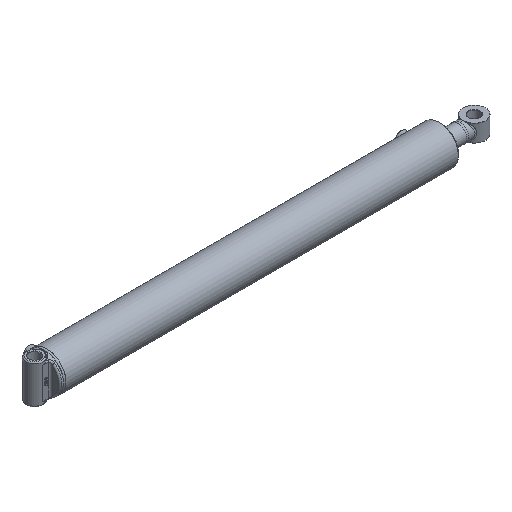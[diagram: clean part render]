
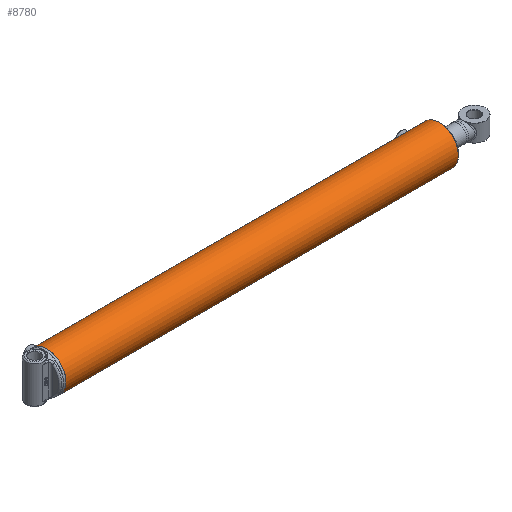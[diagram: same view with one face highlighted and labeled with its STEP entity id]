
A CAD part, isometric view. The second image highlights one B-rep face of the part: STEP entity #8780.
In plain terms, the highlighted cylindrical face has radius 56.356 mm (diameter 112.712 mm), a full revolution.
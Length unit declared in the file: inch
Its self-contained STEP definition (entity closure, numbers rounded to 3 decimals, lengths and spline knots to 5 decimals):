
#808=B_SPLINE_CURVE_WITH_KNOTS('',3,(#13133,#13134,#13135,#13136,#13137,
#13138,#13139,#13140,#13141,#13142),.UNSPECIFIED.,.F.,.F.,(4,2,2,2,4),(0.,
0.23942,0.47883,0.71824,0.95766),
 .UNSPECIFIED.);
#809=B_SPLINE_CURVE_WITH_KNOTS('',3,(#13143,#13144,#13145,#13146,#13147,
#13148,#13149,#13150,#13151,#13152,#13153,#13154,#13155,#13156,#13157,#13158,
#13159,#13160,#13161,#13162,#13163,#13164,#13165,#13166,#13167,#13168),
 .UNSPECIFIED.,.F.,.F.,(4,2,2,2,2,2,2,2,2,2,2,2,4),(0.95766,1.19707,
1.43649,1.6759,1.91532,2.15473,2.39415,
2.63356,2.87297,3.11239,3.3518,3.59122,
3.83063),.UNSPECIFIED.);
#810=B_SPLINE_CURVE_WITH_KNOTS('',3,(#13173,#13174,#13175,#13176,#13177,
#13178,#13179,#13180,#13181,#13182),.UNSPECIFIED.,.F.,.F.,(4,2,2,2,4),(0.,
0.23942,0.47883,0.71824,0.95766),
 .UNSPECIFIED.);
#811=B_SPLINE_CURVE_WITH_KNOTS('',3,(#13183,#13184,#13185,#13186,#13187,
#13188,#13189,#13190,#13191,#13192,#13193,#13194,#13195,#13196,#13197,#13198,
#13199,#13200,#13201,#13202,#13203,#13204,#13205,#13206,#13207,#13208),
 .UNSPECIFIED.,.F.,.F.,(4,2,2,2,2,2,2,2,2,2,2,2,4),(0.95766,1.19707,
1.43649,1.6759,1.91532,2.15473,2.39415,
2.63356,2.87297,3.11239,3.3518,3.59122,
3.83063),.UNSPECIFIED.);
#1096=FACE_BOUND('',#2595,.T.);
#1097=FACE_BOUND('',#2596,.T.);
#1352=LINE('',#13244,#1693);
#1693=VECTOR('',#10661,2.21875);
#2031=CYLINDRICAL_SURFACE('',#9525,2.21875);
#2119=FACE_OUTER_BOUND('',#2594,.T.);
#2594=EDGE_LOOP('',(#6139,#6140,#6141,#6142,#6143,#6144));
#2595=EDGE_LOOP('',(#6145,#6146));
#2596=EDGE_LOOP('',(#6147,#6148));
#3157=CIRCLE('',#9522,2.21875);
#3159=CIRCLE('',#9524,2.21875);
#3160=CIRCLE('',#9526,2.21875);
#3161=CIRCLE('',#9527,2.21875);
#3801=VERTEX_POINT('',#13130);
#3802=VERTEX_POINT('',#13132);
#3803=VERTEX_POINT('',#13170);
#3804=VERTEX_POINT('',#13172);
#3815=VERTEX_POINT('',#13237);
#3816=VERTEX_POINT('',#13238);
#3817=VERTEX_POINT('',#13243);
#3818=VERTEX_POINT('',#13245);
#4736=EDGE_CURVE('',#3802,#3801,#808,.T.);
#4737=EDGE_CURVE('',#3801,#3802,#809,.T.);
#4739=EDGE_CURVE('',#3804,#3803,#810,.T.);
#4740=EDGE_CURVE('',#3803,#3804,#811,.T.);
#4754=EDGE_CURVE('',#3815,#3816,#3157,.T.);
#4756=EDGE_CURVE('',#3816,#3815,#3159,.T.);
#4757=EDGE_CURVE('',#3815,#3817,#1352,.T.);
#4758=EDGE_CURVE('',#3818,#3817,#3160,.T.);
#4759=EDGE_CURVE('',#3817,#3818,#3161,.T.);
#6139=ORIENTED_EDGE('',*,*,#4754,.F.);
#6140=ORIENTED_EDGE('',*,*,#4757,.T.);
#6141=ORIENTED_EDGE('',*,*,#4758,.F.);
#6142=ORIENTED_EDGE('',*,*,#4759,.F.);
#6143=ORIENTED_EDGE('',*,*,#4757,.F.);
#6144=ORIENTED_EDGE('',*,*,#4756,.F.);
#6145=ORIENTED_EDGE('',*,*,#4736,.T.);
#6146=ORIENTED_EDGE('',*,*,#4737,.T.);
#6147=ORIENTED_EDGE('',*,*,#4739,.T.);
#6148=ORIENTED_EDGE('',*,*,#4740,.T.);
#8780=ADVANCED_FACE('',(#2119,#1096,#1097),#2031,.T.);
#9522=AXIS2_PLACEMENT_3D('',#13239,#10653,#10654);
#9524=AXIS2_PLACEMENT_3D('',#13241,#10657,#10658);
#9525=AXIS2_PLACEMENT_3D('',#13242,#10659,#10660);
#9526=AXIS2_PLACEMENT_3D('',#13246,#10662,#10663);
#9527=AXIS2_PLACEMENT_3D('',#13247,#10664,#10665);
#10653=DIRECTION('center_axis',(1.,0.,0.));
#10654=DIRECTION('ref_axis',(0.,-1.,0.));
#10657=DIRECTION('center_axis',(1.,0.,0.));
#10658=DIRECTION('ref_axis',(0.,-1.,0.));
#10659=DIRECTION('center_axis',(1.,0.,0.));
#10660=DIRECTION('ref_axis',(0.,-1.,0.));
#10661=DIRECTION('',(-1.,0.,0.));
#10662=DIRECTION('center_axis',(-1.,0.,0.));
#10663=DIRECTION('ref_axis',(0.,-1.,0.));
#10664=DIRECTION('center_axis',(-1.,0.,0.));
#10665=DIRECTION('ref_axis',(0.,-1.,0.));
#13130=CARTESIAN_POINT('',(0.75,0.,2.21875));
#13132=CARTESIAN_POINT('',(1.,-0.25,2.20462));
#13133=CARTESIAN_POINT('Ctrl Pts',(1.,-0.25,2.20462));
#13134=CARTESIAN_POINT('Ctrl Pts',(0.96858,-0.25,2.20462));
#13135=CARTESIAN_POINT('Ctrl Pts',(0.93509,-0.24372,
2.20536));
#13136=CARTESIAN_POINT('Ctrl Pts',(0.8735,-0.21819,
2.20803));
#13137=CARTESIAN_POINT('Ctrl Pts',(0.8454,-0.19896,
2.20992));
#13138=CARTESIAN_POINT('Ctrl Pts',(0.80104,-0.1546,
2.21347));
#13139=CARTESIAN_POINT('Ctrl Pts',(0.78181,-0.1265,
2.21536));
#13140=CARTESIAN_POINT('Ctrl Pts',(0.75628,-0.06491,
2.21801));
#13141=CARTESIAN_POINT('Ctrl Pts',(0.75,-0.03142,2.21875));
#13142=CARTESIAN_POINT('Ctrl Pts',(0.75,0.,2.21875));
#13143=CARTESIAN_POINT('Ctrl Pts',(0.75,0.,2.21875));
#13144=CARTESIAN_POINT('Ctrl Pts',(0.75,0.03142,2.21875));
#13145=CARTESIAN_POINT('Ctrl Pts',(0.75628,0.06491,2.21801));
#13146=CARTESIAN_POINT('Ctrl Pts',(0.78181,0.1265,
2.21536));
#13147=CARTESIAN_POINT('Ctrl Pts',(0.80104,0.1546,
2.21347));
#13148=CARTESIAN_POINT('Ctrl Pts',(0.8454,0.19896,
2.20992));
#13149=CARTESIAN_POINT('Ctrl Pts',(0.8735,0.21819,2.20803));
#13150=CARTESIAN_POINT('Ctrl Pts',(0.93509,0.24372,
2.20536));
#13151=CARTESIAN_POINT('Ctrl Pts',(0.96858,0.25,2.20462));
#13152=CARTESIAN_POINT('Ctrl Pts',(1.03142,0.25,2.20462));
#13153=CARTESIAN_POINT('Ctrl Pts',(1.06491,0.24372,2.20536));
#13154=CARTESIAN_POINT('Ctrl Pts',(1.1265,0.21819,2.20803));
#13155=CARTESIAN_POINT('Ctrl Pts',(1.1546,0.19896,2.20992));
#13156=CARTESIAN_POINT('Ctrl Pts',(1.19896,0.1546,2.21347));
#13157=CARTESIAN_POINT('Ctrl Pts',(1.21819,0.1265,2.21536));
#13158=CARTESIAN_POINT('Ctrl Pts',(1.24372,0.06491,
2.21801));
#13159=CARTESIAN_POINT('Ctrl Pts',(1.25,0.03142,2.21875));
#13160=CARTESIAN_POINT('Ctrl Pts',(1.25,-0.03142,2.21875));
#13161=CARTESIAN_POINT('Ctrl Pts',(1.24372,-0.06491,
2.21801));
#13162=CARTESIAN_POINT('Ctrl Pts',(1.21819,-0.1265,
2.21536));
#13163=CARTESIAN_POINT('Ctrl Pts',(1.19896,-0.1546,
2.21347));
#13164=CARTESIAN_POINT('Ctrl Pts',(1.1546,-0.19896,
2.20992));
#13165=CARTESIAN_POINT('Ctrl Pts',(1.1265,-0.21819,2.20803));
#13166=CARTESIAN_POINT('Ctrl Pts',(1.06491,-0.24372,2.20536));
#13167=CARTESIAN_POINT('Ctrl Pts',(1.03142,-0.25,2.20462));
#13168=CARTESIAN_POINT('Ctrl Pts',(1.,-0.25,2.20462));
#13170=CARTESIAN_POINT('',(43.87,0.,2.21875));
#13172=CARTESIAN_POINT('',(44.12,-0.25,2.20462));
#13173=CARTESIAN_POINT('Ctrl Pts',(44.12,-0.25,2.20462));
#13174=CARTESIAN_POINT('Ctrl Pts',(44.08858,-0.25,
2.20462));
#13175=CARTESIAN_POINT('Ctrl Pts',(44.05509,-0.24372,
2.20536));
#13176=CARTESIAN_POINT('Ctrl Pts',(43.9935,-0.21819,
2.20803));
#13177=CARTESIAN_POINT('Ctrl Pts',(43.9654,-0.19896,2.20992));
#13178=CARTESIAN_POINT('Ctrl Pts',(43.92104,-0.1546,
2.21347));
#13179=CARTESIAN_POINT('Ctrl Pts',(43.90181,-0.1265,
2.21536));
#13180=CARTESIAN_POINT('Ctrl Pts',(43.87628,-0.06491,
2.21801));
#13181=CARTESIAN_POINT('Ctrl Pts',(43.87,-0.03142,2.21875));
#13182=CARTESIAN_POINT('Ctrl Pts',(43.87,0.,2.21875));
#13183=CARTESIAN_POINT('Ctrl Pts',(43.87,0.,2.21875));
#13184=CARTESIAN_POINT('Ctrl Pts',(43.87,0.03142,2.21875));
#13185=CARTESIAN_POINT('Ctrl Pts',(43.87628,0.06491,
2.21801));
#13186=CARTESIAN_POINT('Ctrl Pts',(43.90181,0.1265,2.21536));
#13187=CARTESIAN_POINT('Ctrl Pts',(43.92104,0.1546,2.21347));
#13188=CARTESIAN_POINT('Ctrl Pts',(43.9654,0.19896,2.20992));
#13189=CARTESIAN_POINT('Ctrl Pts',(43.9935,0.21819,2.20803));
#13190=CARTESIAN_POINT('Ctrl Pts',(44.05509,0.24372,2.20536));
#13191=CARTESIAN_POINT('Ctrl Pts',(44.08858,0.25,2.20462));
#13192=CARTESIAN_POINT('Ctrl Pts',(44.15142,0.25,2.20462));
#13193=CARTESIAN_POINT('Ctrl Pts',(44.18491,0.24372,2.20536));
#13194=CARTESIAN_POINT('Ctrl Pts',(44.2465,0.21819,2.20803));
#13195=CARTESIAN_POINT('Ctrl Pts',(44.2746,0.19896,2.20992));
#13196=CARTESIAN_POINT('Ctrl Pts',(44.31896,0.1546,2.21347));
#13197=CARTESIAN_POINT('Ctrl Pts',(44.33819,0.1265,2.21536));
#13198=CARTESIAN_POINT('Ctrl Pts',(44.36372,0.06491,
2.21801));
#13199=CARTESIAN_POINT('Ctrl Pts',(44.37,0.03142,2.21875));
#13200=CARTESIAN_POINT('Ctrl Pts',(44.37,-0.03142,2.21875));
#13201=CARTESIAN_POINT('Ctrl Pts',(44.36372,-0.06491,
2.21801));
#13202=CARTESIAN_POINT('Ctrl Pts',(44.33819,-0.1265,
2.21536));
#13203=CARTESIAN_POINT('Ctrl Pts',(44.31896,-0.1546,
2.21347));
#13204=CARTESIAN_POINT('Ctrl Pts',(44.2746,-0.19896,
2.20992));
#13205=CARTESIAN_POINT('Ctrl Pts',(44.2465,-0.21819,
2.20803));
#13206=CARTESIAN_POINT('Ctrl Pts',(44.18491,-0.24372,
2.20536));
#13207=CARTESIAN_POINT('Ctrl Pts',(44.15142,-0.25,
2.20462));
#13208=CARTESIAN_POINT('Ctrl Pts',(44.12,-0.25,2.20462));
#13237=CARTESIAN_POINT('',(45.61,2.21875,0.));
#13238=CARTESIAN_POINT('',(45.61,0.,-2.21875));
#13239=CARTESIAN_POINT('Origin',(45.61,0.,0.));
#13241=CARTESIAN_POINT('Origin',(45.61,0.,0.));
#13242=CARTESIAN_POINT('Origin',(0.,0.,0.));
#13243=CARTESIAN_POINT('',(0.11186,2.21875,0.));
#13244=CARTESIAN_POINT('',(0.,2.21875,0.));
#13245=CARTESIAN_POINT('',(0.11186,0.,2.21875));
#13246=CARTESIAN_POINT('Origin',(0.11186,0.,0.));
#13247=CARTESIAN_POINT('Origin',(0.11186,0.,0.));
